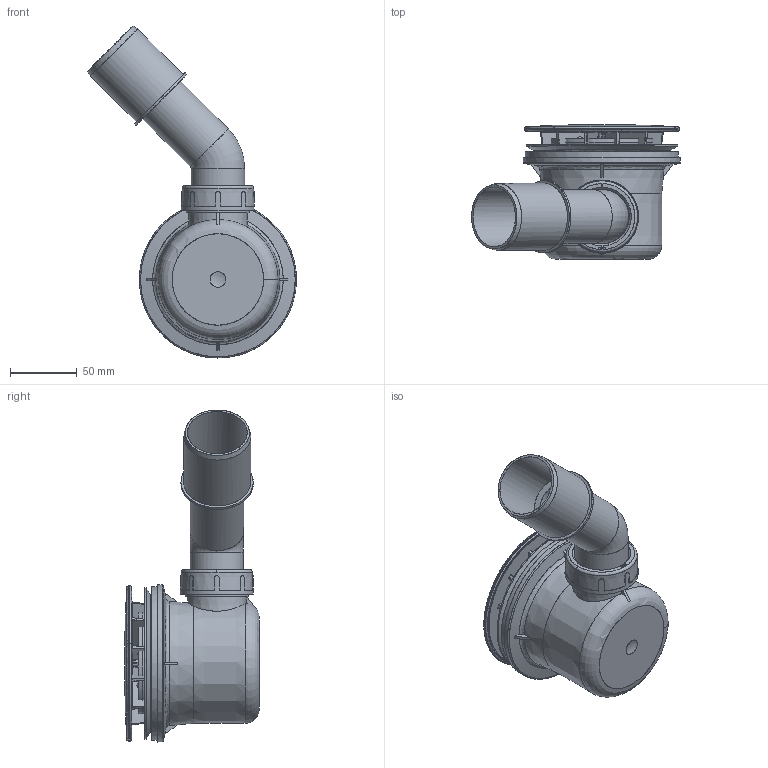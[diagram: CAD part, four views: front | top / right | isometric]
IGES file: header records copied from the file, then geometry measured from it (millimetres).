
Global section: file name: 8014644070413_igs; native system: Autodesk Inventor 2020; preprocessor: unknown; date: 20200727.142556; units: millimetre
Bounding box: 156.93 x 101.2 x 249.43 mm (x, y, z)
Surface area: 286113.1 mm2 (no closed solid volume)
Topology: 0 solids, 0 shells, 951 faces, 16054 edges, 16046 vertices
Faces by surface type: bspline 678, revolution 273
